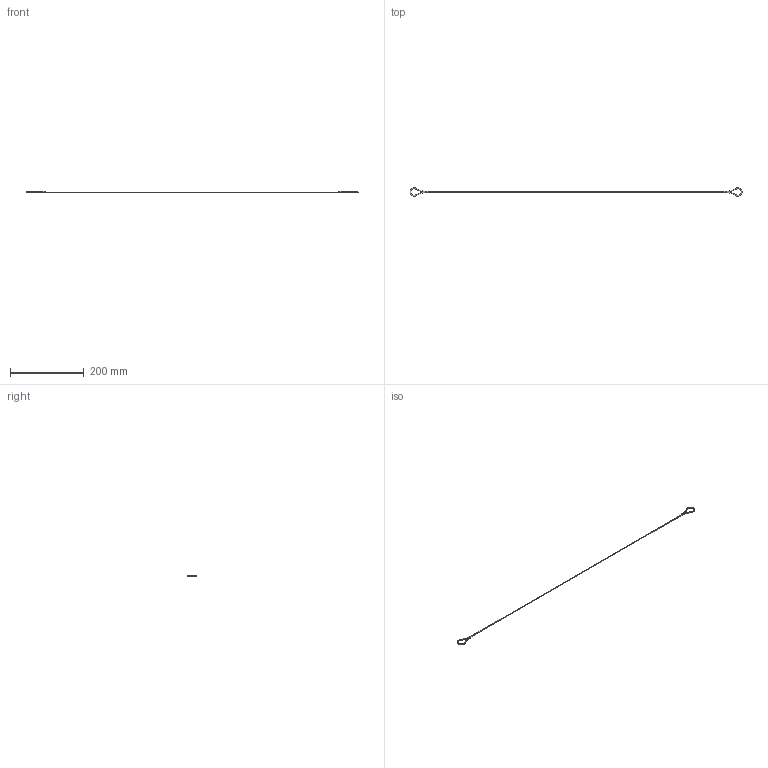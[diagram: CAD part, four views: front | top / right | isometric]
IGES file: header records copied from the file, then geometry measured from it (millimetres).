
Start section:  PTC IGES file: EB-935_21.igs
Global section: file name: EB-935_21.igs; native system: Creo Parametric by Parametric Technology Corporation; preprocessor: 2012360; author: xeon_1; organization: Unknown; date: 20130808.151454; units: millimetre
Bounding box: 899.92 x 22.47 x 5 mm (x, y, z)
Volume: 3465.5 mm3; surface area: 6562.8 mm2
Topology: 1 solids, 1 shells, 32 faces, 70 edges, 38 vertices
Faces by surface type: revolution 26, bspline 6
